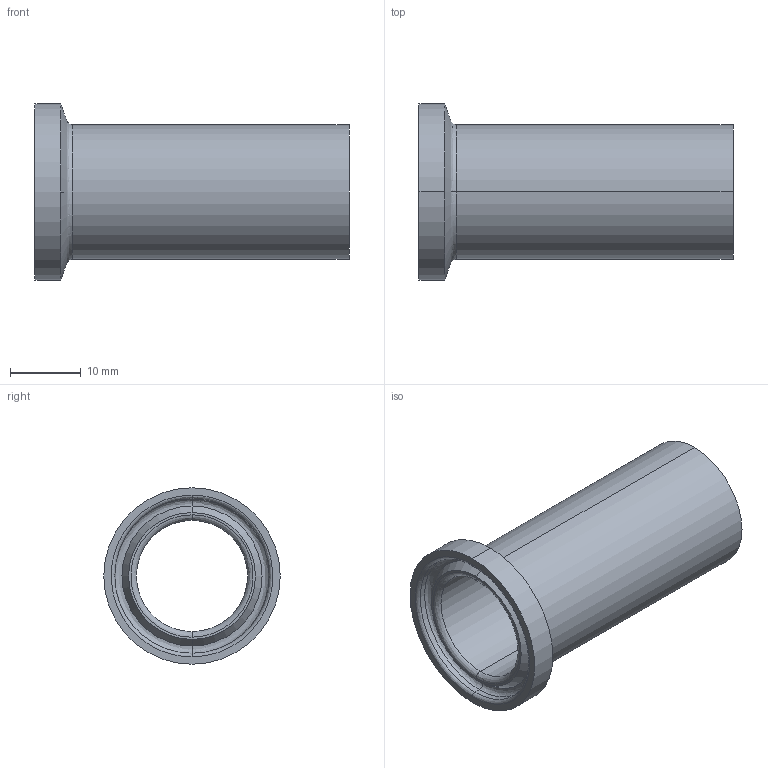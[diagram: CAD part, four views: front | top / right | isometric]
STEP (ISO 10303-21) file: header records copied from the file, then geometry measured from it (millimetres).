
FILE_DESCRIPTION (( 'STEP AP214' ), '1' );
FILE_NAME ('TEG14AM76L.75.STEP', '2016-05-23T03:46:00', ( 'eran' ), ( '' ), 'SwSTEP 2.0', 'SolidWorks 2016', '' );
FILE_SCHEMA (( 'AUTOMOTIVE_DESIGN' ));
Length unit declared in the file: millimetre
Products named in the file (1): TEG14AM76L.75
Bounding box: 44.5 x 24.99 x 24.99 mm (x, y, z)
Volume: 4597.6 mm3; surface area: 5560.7 mm2
Topology: 1 solids, 1 shells, 23 faces, 50 edges, 30 vertices
Faces by surface type: bspline 8, cylinder 8, cone 4, plane 3
Entity records: 764 total; most frequent: CARTESIAN_POINT 236, DIRECTION 112, ORIENTED_EDGE 100, EDGE_CURVE 50, AXIS2_PLACEMENT_3D 50, CIRCLE 34, VERTEX_POINT 30, EDGE_LOOP 26
